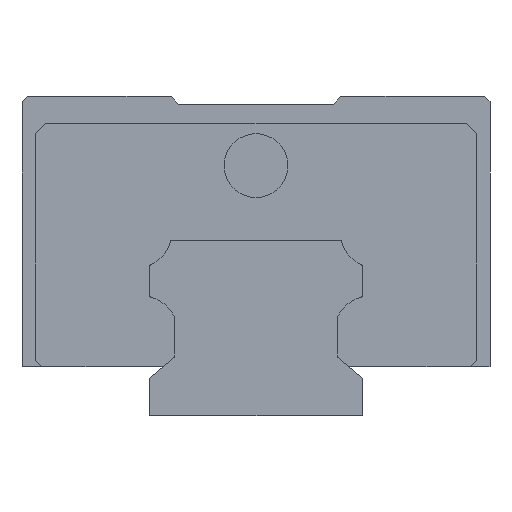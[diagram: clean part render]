
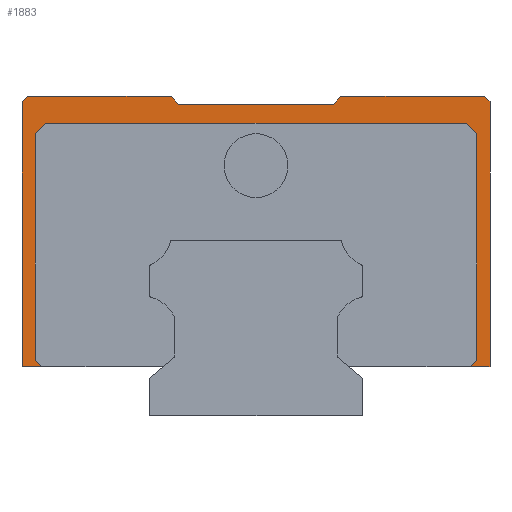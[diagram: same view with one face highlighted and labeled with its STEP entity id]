
A CAD part, left-side view. The second image highlights one B-rep face of the part: STEP entity #1883.
In plain terms, the highlighted planar face has unit normal (-1, 0, 0).
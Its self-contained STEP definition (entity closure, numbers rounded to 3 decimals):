
#68 = CARTESIAN_POINT ( 'NONE',  ( -27., -7.333, 29.25 ) ) ;
#74 = ORIENTED_EDGE ( 'NONE', *, *, #5862, .F. ) ;
#101 = VECTOR ( 'NONE', #2778, 1000. ) ;
#283 = VECTOR ( 'NONE', #585, 1000. ) ;
#320 = VERTEX_POINT ( 'NONE', #4172 ) ;
#364 = EDGE_CURVE ( 'NONE', #1189, #3830, #861, .T. ) ;
#434 = LINE ( 'NONE', #2399, #4424 ) ;
#456 = ORIENTED_EDGE ( 'NONE', *, *, #2544, .F. ) ;
#558 = CARTESIAN_POINT ( 'NONE',  ( -27., -22., 29.5 ) ) ;
#559 = LINE ( 'NONE', #1439, #2458 ) ;
#585 = DIRECTION ( 'NONE',  ( 0., 0.643, -0.766 ) ) ;
#651 = CARTESIAN_POINT ( 'NONE',  ( -27., -21.5, 30. ) ) ;
#739 = CARTESIAN_POINT ( 'NONE',  ( -27., -20.75, 30. ) ) ;
#809 = VERTEX_POINT ( 'NONE', #4287 ) ;
#861 = LINE ( 'NONE', #4767, #5330 ) ;
#882 = ORIENTED_EDGE ( 'NONE', *, *, #4597, .T. ) ;
#891 = VERTEX_POINT ( 'NONE', #5745 ) ;
#998 = DIRECTION ( 'NONE',  ( 0., 0.707, 0.707 ) ) ;
#1001 = LINE ( 'NONE', #5727, #5327 ) ;
#1022 = VERTEX_POINT ( 'NONE', #1221 ) ;
#1026 = DIRECTION ( 'NONE',  ( 0., 1., 0. ) ) ;
#1060 = CARTESIAN_POINT ( 'NONE',  ( -27., 20.75, 26.5 ) ) ;
#1070 = VECTOR ( 'NONE', #2986, 1000. ) ;
#1081 = CARTESIAN_POINT ( 'NONE',  ( -27., -7.333, 29.25 ) ) ;
#1098 = ORIENTED_EDGE ( 'NONE', *, *, #4486, .F. ) ;
#1148 = CARTESIAN_POINT ( 'NONE',  ( -27., 22., 30. ) ) ;
#1164 = EDGE_CURVE ( 'NONE', #3226, #5835, #1958, .T. ) ;
#1189 = VERTEX_POINT ( 'NONE', #558 ) ;
#1221 = CARTESIAN_POINT ( 'NONE',  ( -27., 20.75, 5.2 ) ) ;
#1237 = EDGE_CURVE ( 'NONE', #5494, #809, #1934, .T. ) ;
#1382 = CARTESIAN_POINT ( 'NONE',  ( -27., 19.75, 27.5 ) ) ;
#1391 = ORIENTED_EDGE ( 'NONE', *, *, #5369, .F. ) ;
#1411 = DIRECTION ( 'NONE',  ( 0., 1., 0. ) ) ;
#1418 = LINE ( 'NONE', #1671, #5600 ) ;
#1439 = CARTESIAN_POINT ( 'NONE',  ( -27., 7.333, 29.25 ) ) ;
#1478 = ORIENTED_EDGE ( 'NONE', *, *, #5374, .T. ) ;
#1559 = DIRECTION ( 'NONE',  ( 0., -0.707, -0.707 ) ) ;
#1602 = LINE ( 'NONE', #2553, #1892 ) ;
#1615 = CARTESIAN_POINT ( 'NONE',  ( -27., 22., 4.6 ) ) ;
#1671 = CARTESIAN_POINT ( 'NONE',  ( -27., -2.375, 49.625 ) ) ;
#1698 = LINE ( 'NONE', #3150, #2764 ) ;
#1707 = EDGE_CURVE ( 'NONE', #5567, #1836, #1001, .T. ) ;
#1794 = DIRECTION ( 'NONE',  ( 1., 0., 0. ) ) ;
#1803 = LINE ( 'NONE', #3203, #4140 ) ;
#1836 = VERTEX_POINT ( 'NONE', #1615 ) ;
#1883 = ADVANCED_FACE ( 'NONE', ( #6125 ), #5126, .F. ) ;
#1892 = VECTOR ( 'NONE', #1559, 1000. ) ;
#1934 = LINE ( 'NONE', #68, #2264 ) ;
#1958 = LINE ( 'NONE', #4209, #5717 ) ;
#1975 = VERTEX_POINT ( 'NONE', #3865 ) ;
#2174 = VECTOR ( 'NONE', #3188, 1000. ) ;
#2243 = VERTEX_POINT ( 'NONE', #1382 ) ;
#2247 = VECTOR ( 'NONE', #4058, 1000. ) ;
#2248 = LINE ( 'NONE', #3214, #2174 ) ;
#2264 = VECTOR ( 'NONE', #1411, 1000. ) ;
#2304 = EDGE_CURVE ( 'NONE', #1836, #3466, #4127, .T. ) ;
#2358 = CARTESIAN_POINT ( 'NONE',  ( -27., -19.625, 27.625 ) ) ;
#2381 = VECTOR ( 'NONE', #6045, 1000. ) ;
#2399 = CARTESIAN_POINT ( 'NONE',  ( -27., 22., 30. ) ) ;
#2458 = VECTOR ( 'NONE', #3323, 1000. ) ;
#2543 = CARTESIAN_POINT ( 'NONE',  ( -27., -7.963, 30. ) ) ;
#2544 = EDGE_CURVE ( 'NONE', #1022, #5567, #1602, .T. ) ;
#2549 = DIRECTION ( 'NONE',  ( 0., -1., 0. ) ) ;
#2553 = CARTESIAN_POINT ( 'NONE',  ( -27., 11.775, -3.775 ) ) ;
#2705 = ORIENTED_EDGE ( 'NONE', *, *, #3129, .F. ) ;
#2749 = ORIENTED_EDGE ( 'NONE', *, *, #4266, .F. ) ;
#2764 = VECTOR ( 'NONE', #4101, 1000. ) ;
#2778 = DIRECTION ( 'NONE',  ( 0., 0., 1. ) ) ;
#2781 = DIRECTION ( 'NONE',  ( 0., 0.707, -0.707 ) ) ;
#2820 = CARTESIAN_POINT ( 'NONE',  ( -27., -20.75, 5.2 ) ) ;
#2866 = ORIENTED_EDGE ( 'NONE', *, *, #1164, .F. ) ;
#2892 = DIRECTION ( 'NONE',  ( 0., -0.707, 0.707 ) ) ;
#2945 = CARTESIAN_POINT ( 'NONE',  ( -27., -7.963, 30. ) ) ;
#2954 = VERTEX_POINT ( 'NONE', #2945 ) ;
#2986 = DIRECTION ( 'NONE',  ( 0., 0., -1. ) ) ;
#3053 = VECTOR ( 'NONE', #2549, 1000. ) ;
#3112 = CARTESIAN_POINT ( 'NONE',  ( -27., 21.5, 30. ) ) ;
#3129 = EDGE_CURVE ( 'NONE', #5835, #4882, #4980, .T. ) ;
#3150 = CARTESIAN_POINT ( 'NONE',  ( -27., -22., 27.5 ) ) ;
#3184 = ORIENTED_EDGE ( 'NONE', *, *, #4106, .T. ) ;
#3188 = DIRECTION ( 'NONE',  ( 0., 0., -1. ) ) ;
#3203 = CARTESIAN_POINT ( 'NONE',  ( -27., -22., 4.6 ) ) ;
#3214 = CARTESIAN_POINT ( 'NONE',  ( -27., 20.75, 30. ) ) ;
#3226 = VERTEX_POINT ( 'NONE', #4769 ) ;
#3308 = ORIENTED_EDGE ( 'NONE', *, *, #3553, .F. ) ;
#3323 = DIRECTION ( 'NONE',  ( 0., 0.643, 0.766 ) ) ;
#3389 = ORIENTED_EDGE ( 'NONE', *, *, #4165, .F. ) ;
#3466 = VERTEX_POINT ( 'NONE', #4661 ) ;
#3553 = EDGE_CURVE ( 'NONE', #2243, #4097, #1418, .T. ) ;
#3581 = DIRECTION ( 'NONE',  ( 0., 0.707, -0.707 ) ) ;
#3643 = CARTESIAN_POINT ( 'NONE',  ( -27., 22., 4.6 ) ) ;
#3733 = CARTESIAN_POINT ( 'NONE',  ( -27., -22., 30. ) ) ;
#3751 = VECTOR ( 'NONE', #3581, 1000. ) ;
#3752 = ORIENTED_EDGE ( 'NONE', *, *, #364, .T. ) ;
#3772 = DIRECTION ( 'NONE',  ( 0., 1., 0. ) ) ;
#3830 = VERTEX_POINT ( 'NONE', #651 ) ;
#3865 = CARTESIAN_POINT ( 'NONE',  ( -27., 7.963, 30. ) ) ;
#4004 = ORIENTED_EDGE ( 'NONE', *, *, #1707, .F. ) ;
#4058 = DIRECTION ( 'NONE',  ( 0., 0., 1. ) ) ;
#4097 = VERTEX_POINT ( 'NONE', #1060 ) ;
#4101 = DIRECTION ( 'NONE',  ( 0., 1., 0. ) ) ;
#4106 = EDGE_CURVE ( 'NONE', #809, #1975, #559, .T. ) ;
#4118 = LINE ( 'NONE', #3112, #3751 ) ;
#4127 = LINE ( 'NONE', #3643, #101 ) ;
#4140 = VECTOR ( 'NONE', #6050, 1000. ) ;
#4165 = EDGE_CURVE ( 'NONE', #320, #1975, #5388, .T. ) ;
#4172 = CARTESIAN_POINT ( 'NONE',  ( -27., 21.5, 30. ) ) ;
#4209 = CARTESIAN_POINT ( 'NONE',  ( -27., -33.775, 18.225 ) ) ;
#4266 = EDGE_CURVE ( 'NONE', #1189, #891, #5331, .T. ) ;
#4274 = DIRECTION ( 'NONE',  ( 0., -1., 0. ) ) ;
#4287 = CARTESIAN_POINT ( 'NONE',  ( -27., 7.333, 29.25 ) ) ;
#4424 = VECTOR ( 'NONE', #4274, 1000. ) ;
#4460 = ORIENTED_EDGE ( 'NONE', *, *, #5188, .F. ) ;
#4486 = EDGE_CURVE ( 'NONE', #2954, #3830, #434, .T. ) ;
#4491 = CARTESIAN_POINT ( 'NONE',  ( -27., -22., 28. ) ) ;
#4571 = CARTESIAN_POINT ( 'NONE',  ( -27., -19.75, 27.5 ) ) ;
#4597 = EDGE_CURVE ( 'NONE', #2954, #5494, #5354, .T. ) ;
#4643 = AXIS2_PLACEMENT_3D ( 'NONE', #3733, #1794, #3772 ) ;
#4661 = CARTESIAN_POINT ( 'NONE',  ( -27., 22., 29.5 ) ) ;
#4739 = LINE ( 'NONE', #2358, #2381 ) ;
#4767 = CARTESIAN_POINT ( 'NONE',  ( -27., -22., 29.5 ) ) ;
#4769 = CARTESIAN_POINT ( 'NONE',  ( -27., -20.15, 4.6 ) ) ;
#4789 = CARTESIAN_POINT ( 'NONE',  ( -27., -20.75, 26.5 ) ) ;
#4882 = VERTEX_POINT ( 'NONE', #4789 ) ;
#4948 = CARTESIAN_POINT ( 'NONE',  ( -27., 20.15, 4.6 ) ) ;
#4980 = LINE ( 'NONE', #739, #2247 ) ;
#5016 = EDGE_LOOP ( 'NONE', ( #456, #4460, #3308, #6111, #74, #2705, #2866, #1391, #2749, #3752, #1098, #882, #5221, #3184, #3389, #1478, #5644, #4004 ) ) ;
#5126 = PLANE ( 'NONE',  #4643 ) ;
#5155 = VERTEX_POINT ( 'NONE', #4571 ) ;
#5174 = EDGE_CURVE ( 'NONE', #5155, #2243, #1698, .T. ) ;
#5188 = EDGE_CURVE ( 'NONE', #4097, #1022, #2248, .T. ) ;
#5221 = ORIENTED_EDGE ( 'NONE', *, *, #1237, .T. ) ;
#5327 = VECTOR ( 'NONE', #1026, 1000. ) ;
#5330 = VECTOR ( 'NONE', #998, 1000. ) ;
#5331 = LINE ( 'NONE', #4491, #1070 ) ;
#5354 = LINE ( 'NONE', #2543, #283 ) ;
#5369 = EDGE_CURVE ( 'NONE', #891, #3226, #1803, .T. ) ;
#5374 = EDGE_CURVE ( 'NONE', #320, #3466, #4118, .T. ) ;
#5388 = LINE ( 'NONE', #1148, #3053 ) ;
#5494 = VERTEX_POINT ( 'NONE', #1081 ) ;
#5567 = VERTEX_POINT ( 'NONE', #4948 ) ;
#5600 = VECTOR ( 'NONE', #2781, 1000. ) ;
#5644 = ORIENTED_EDGE ( 'NONE', *, *, #2304, .F. ) ;
#5717 = VECTOR ( 'NONE', #2892, 1000. ) ;
#5727 = CARTESIAN_POINT ( 'NONE',  ( -27., 9., 4.6 ) ) ;
#5745 = CARTESIAN_POINT ( 'NONE',  ( -27., -22., 4.6 ) ) ;
#5835 = VERTEX_POINT ( 'NONE', #2820 ) ;
#5862 = EDGE_CURVE ( 'NONE', #4882, #5155, #4739, .T. ) ;
#6045 = DIRECTION ( 'NONE',  ( 0., 0.707, 0.707 ) ) ;
#6050 = DIRECTION ( 'NONE',  ( 0., 1., 0. ) ) ;
#6111 = ORIENTED_EDGE ( 'NONE', *, *, #5174, .F. ) ;
#6125 = FACE_OUTER_BOUND ( 'NONE', #5016, .T. ) ;
